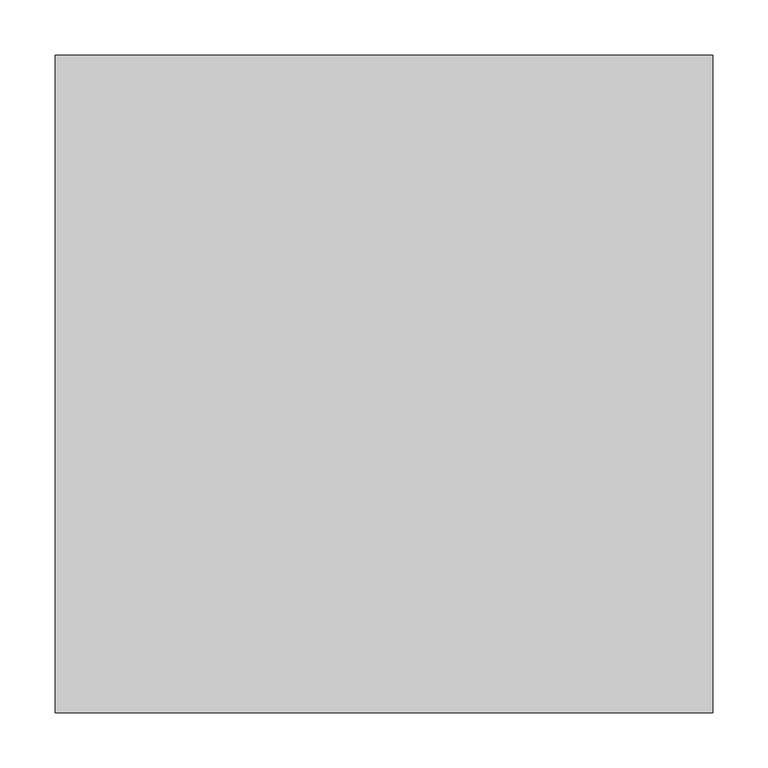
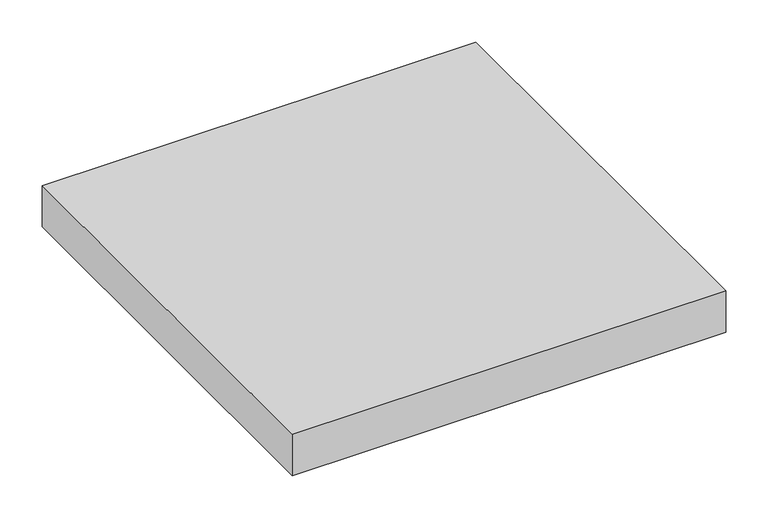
"""IFC4 building model written with IfcOpenShell, lengths in millimetres: light fixture geometry, GENILED_Светильник светодиодный_Офис Comfort : Office Comfort 595x595x60 45Вт Ra90 IP54 Опал."""

import ifcopenshell
import ifcopenshell.guid

model = None  # the IFC model being written
_history = None  # IfcOwnerHistory: only IFC2X3 demands one
_inside = {}  # id of a spatial element -> (the spatial element, [elements in it])
_under = {}  # id of a project, library or spatial element -> (it, [spatial elements below it])
_declared = {}  # id of a project -> (the project, [libraries it declares])
_typed = {}  # id of a type object -> (the type object, [elements of that type])
_made_of = {}  # id of a material, layer set ... -> (it, [elements and type objects made of it])


def new_model(schema):
    """Start an empty IFC model of exactly this schema.

    Asked for "IFC4X3", IfcOpenShell would pick the latest addendum, in which some entities
    have other attributes; the version numbers below select the first issue.
    IFC2X3 requires an IfcOwnerHistory on every rooted entity: one is made here for all.
    """
    global model, _history
    if schema == "IFC4X3":
        model = ifcopenshell.file(schema_version=(4, 3, 0, 0))
    else:
        model = ifcopenshell.file(schema=schema)
    _inside.clear()
    _under.clear()
    _declared.clear()
    _typed.clear()
    _made_of.clear()
    _history = None
    if model.schema == "IFC2X3":
        org = make("IfcOrganization", Name="unknown")
        user = make(
            "IfcPersonAndOrganization",
            ThePerson=make("IfcPerson", FamilyName="unknown"),
            TheOrganization=org,
        )
        app = make(
            "IfcApplication",
            ApplicationDeveloper=org,
            Version="unknown",
            ApplicationFullName="unknown",
            ApplicationIdentifier="unknown",
        )
        _history = make(
            "IfcOwnerHistory",
            OwningUser=user,
            OwningApplication=app,
            ChangeAction="ADDED",
            CreationDate=0,
        )
    return model


def make(cls, **values):
    """One entity of the class cls with the attributes given. An attribute that is None is left unset."""
    return model.create_entity(
        cls, **{name: value for name, value in values.items() if value is not None}
    )


def rooted(cls, **values):
    """An entity with a GlobalId (a new one), such as an element, a storey or a relation."""
    return make(cls, GlobalId=ifcopenshell.guid.new(), OwnerHistory=_history, **values)


def si_unit(unit_type, name, prefix=None):
    """IfcSIUnit, for example si_unit("LENGTHUNIT", "METRE", prefix="MILLI")."""
    return make("IfcSIUnit", UnitType=unit_type, Prefix=prefix, Name=name)


def assignment(units):
    """IfcUnitAssignment: the units of a project."""
    return None if units is None else make("IfcUnitAssignment", Units=units)


def point(xyz):
    """IfcCartesianPoint."""
    return None if xyz is None else make("IfcCartesianPoint", Coordinates=xyz)


def direction(xyz):
    """IfcDirection."""
    return None if xyz is None else make("IfcDirection", DirectionRatios=xyz)


def frame(location, z_axis=None, x_axis=None):
    """IfcAxis2Placement3D, a coordinate frame: its origin and axes. An axis left out is left unset."""
    return make(
        "IfcAxis2Placement3D",
        Location=point(location),
        Axis=direction(z_axis),
        RefDirection=direction(x_axis),
    )


def origin():
    """The frame at (0, 0, 0) with its axes left unset."""
    return frame((0.0, 0.0, 0.0))


def place(relative_to, where):
    """IfcLocalPlacement: puts the frame where relative to a parent placement (None: the world)."""
    return make(
        "IfcLocalPlacement", PlacementRelTo=relative_to, RelativePlacement=where
    )


def context(
    kind, dimensions, precision=None, world=None, true_north=None, identifier=None
):
    """IfcGeometricRepresentationContext, for example the 3D "Model" context."""
    return make(
        "IfcGeometricRepresentationContext",
        ContextIdentifier=identifier,
        ContextType=kind,
        CoordinateSpaceDimension=dimensions,
        Precision=precision,
        WorldCoordinateSystem=world,
        TrueNorth=true_north,
    )


def project(units=None, contexts=None):
    """IfcProject with its units and contexts."""
    return rooted(
        "IfcProject",
        Name="project",
        RepresentationContexts=contexts,
        UnitsInContext=assignment(units),
    )


def spatial(cls, under=None, at=None, **own):
    """A site, building, storey or space (cls), placed at a placement, below another one or the project."""
    s = rooted(cls, ObjectPlacement=at, **own)
    if under is not None:
        _under.setdefault(under.id(), (under, []))[1].append(s)
    return s


def faces_of(points, faces, orient=None, outer=None):
    """IfcFace entities. A face is a list of loops; a loop is a list of indices into points, from 0.

    orient and outer hold one flag for each loop. By default every Orientation is true, the
    first loop of a face is its IfcFaceOuterBound and the others are IfcFaceBound.
    """
    made = []
    for i, loops in enumerate(faces):
        bounds = []
        for j, loop in enumerate(loops):
            is_outer = j == 0 if outer is None else outer[i][j]
            bounds.append(
                make(
                    "IfcFaceOuterBound" if is_outer else "IfcFaceBound",
                    Bound=make("IfcPolyLoop", Polygon=[points[k] for k in loop]),
                    Orientation=True if orient is None else orient[i][j],
                )
            )
        made.append(make("IfcFace", Bounds=bounds))
    return made


def faceted_brep(points, faces, orient=None, outer=None, voids=None):
    """IfcFacetedBrep: a solid bounded by flat faces; with voids (closed shells), ...WithVoids."""
    shared = [point(p) for p in points]
    hull = make("IfcClosedShell", CfsFaces=faces_of(shared, faces, orient, outer))
    if voids is None:
        return make("IfcFacetedBrep", Outer=hull)
    return make(
        "IfcFacetedBrepWithVoids",
        Outer=hull,
        Voids=[
            make(cls, CfsFaces=faces_of(shared, fs, o, b)) for cls, fs, o, b in voids
        ],
    )


def shape(context_of_items, identifier, shape_type, items):
    """IfcShapeRepresentation: the items that make up one representation, for example the "Body"."""
    return make(
        "IfcShapeRepresentation",
        ContextOfItems=context_of_items,
        RepresentationIdentifier=identifier,
        RepresentationType=shape_type,
        Items=items,
    )


def source(mapping_origin, context_of_items, identifier, shape_type, items):
    """IfcRepresentationMap: a shape defined once, which mapped items show again and again."""
    return make(
        "IfcRepresentationMap",
        MappingOrigin=mapping_origin,
        MappedRepresentation=shape(context_of_items, identifier, shape_type, items),
    )


def transform(
    local_origin,
    x_axis=None,
    y_axis=None,
    z_axis=None,
    scale=None,
    scale2=None,
    scale3=None,
    uniform=True,
):
    """IfcCartesianTransformationOperator3D, or its non-uniform kind. x_axis, y_axis, z_axis: its Axis1, 2, 3."""
    if uniform:
        return make(
            "IfcCartesianTransformationOperator3D",
            Axis1=direction(x_axis),
            Axis2=direction(y_axis),
            LocalOrigin=point(local_origin),
            Scale=scale,
            Axis3=direction(z_axis),
        )
    return make(
        "IfcCartesianTransformationOperator3DnonUniform",
        Axis1=direction(x_axis),
        Axis2=direction(y_axis),
        LocalOrigin=point(local_origin),
        Scale=scale,
        Axis3=direction(z_axis),
        Scale2=scale2,
        Scale3=scale3,
    )


def mapped(mapping_source, mapping_target):
    """IfcMappedItem: shows the shape of a source again, moved by a transform."""
    return make(
        "IfcMappedItem", MappingSource=mapping_source, MappingTarget=mapping_target
    )


def made_of(thing, what):
    """Note that an element or type object is made of a material, layer set ...; save() writes the relation."""
    if what is not None:
        _made_of.setdefault(what.id(), (what, []))[1].append(thing)
    return thing


def element(
    cls,
    number,
    at=None,
    inside=None,
    cuts=None,
    type_object=None,
    material=None,
    context=None,
    identifier="Body",
    shape_type=None,
    held_by="IfcProductDefinitionShape",
    body=None,
    shapes=None,
    **own,
):
    """One element of the class cls, such as IfcWall. Its Tag is "e" and its number.

    at: its placement. inside: the storey or other place that contains it. cuts: it is an
    opening in that element (IfcRelVoidsElement). A single representation is given by context,
    identifier, shape_type and body (its items); several are given by shapes. held_by: the class
    of the entity that holds the representations. save() writes the other relations.
    """
    e = rooted(cls, Tag="e%d" % number, ObjectPlacement=at, **own)
    if body is not None:
        shapes = [shape(context, identifier, shape_type, body)]
    if shapes is not None:
        e.Representation = make(held_by, Representations=shapes)
    if inside is not None:
        _inside.setdefault(inside.id(), (inside, []))[1].append(e)
    if cuts is not None:
        rooted(
            "IfcRelVoidsElement", RelatingBuildingElement=cuts, RelatedOpeningElement=e
        )
    if type_object is not None:
        _typed.setdefault(type_object.id(), (type_object, []))[1].append(e)
    return made_of(e, material)


def aggregate(whole, parts):
    """IfcRelAggregates: a whole, such as a stair, and the parts it consists of."""
    return rooted("IfcRelAggregates", RelatingObject=whole, RelatedObjects=parts)


def save(model, path):
    """Write the relations noted so far, then the file.

    IfcRelAggregates (storeys below a building ...), IfcRelContainedInSpatialStructure (elements
    in a storey), IfcRelDefinesByType, IfcRelAssociatesMaterial and IfcRelDeclares: one each for
    every whole, place, type object, material and project.
    """
    for whole, parts in _under.values():
        aggregate(whole, parts)
    for where, things in _inside.values():
        rooted(
            "IfcRelContainedInSpatialStructure",
            RelatedElements=things,
            RelatingStructure=where,
        )
    for kind, things in _typed.values():
        rooted("IfcRelDefinesByType", RelatedObjects=things, RelatingType=kind)
    for what, things in _made_of.values():
        rooted("IfcRelAssociatesMaterial", RelatedObjects=things, RelatingMaterial=what)
    for by, libraries in _declared.values():
        rooted("IfcRelDeclares", RelatingContext=by, RelatedDefinitions=libraries)
    model.write(path)


def light_fixture_e045c9b8(model_context):
    return source(origin(), model_context, "Body", "Brep", [
        faceted_brep([(297.5, 297.5, 60.0), (-297.5, 297.5, 60.0), (-297.5, -297.5, 60.0), (297.5, -297.5, 60.0), (297.5, 297.5, 0.0), (297.5, -297.5, 0.0), (-297.5, -297.5, 0.0), (-297.5, 297.5, 0.0), (287.5, 287.5, 0.0), (-287.5, 287.5, 0.0), (-287.5, -287.5, 0.0), (287.5, -287.5, 0.0), (287.5, -287.5, 5.0), (287.5, 287.5, 5.0), (-287.5, -287.5, 5.0), (-287.5, 287.5, 5.0)], [[[0, 1, 2, 3]], [[4, 5, 6, 7], [8, 9, 10, 11]], [[1, 0, 4, 7]], [[2, 1, 7, 6]], [[3, 2, 6, 5]], [[0, 3, 5, 4]], [[8, 11, 12, 13]], [[11, 10, 14, 12]], [[10, 9, 15, 14]], [[9, 8, 13, 15]], [[13, 12, 14, 15]]]),
    ])


if __name__ == "__main__":
    model = new_model("IFC4")
    model_context = context("Model", 3, world=origin())
    ifc_project = project(units=[si_unit("LENGTHUNIT", "METRE", prefix="MILLI")], contexts=[model_context])
    site = spatial("IfcSite", under=ifc_project)
    building = spatial("IfcBuilding", under=site)
    placement = place(None, origin())
    light_fixture_shape = light_fixture_e045c9b8(model_context)
    element("IfcLightFixture", 1, ObjectType="GENILED_Светильник светодиодный_Офис Comfort : Office Comfort 595x595x60 45Вт Ra90 IP54 Опал", at=placement, inside=building, context=model_context, shape_type="MappedRepresentation", body=[
        mapped(light_fixture_shape, transform((0.0, 0.0, 0.0), x_axis=(1.0, 0.0, 0.0), y_axis=(0.0, 1.0, 0.0), z_axis=(0.0, 0.0, 1.0))),
    ])
    save(model, "model.ifc")
